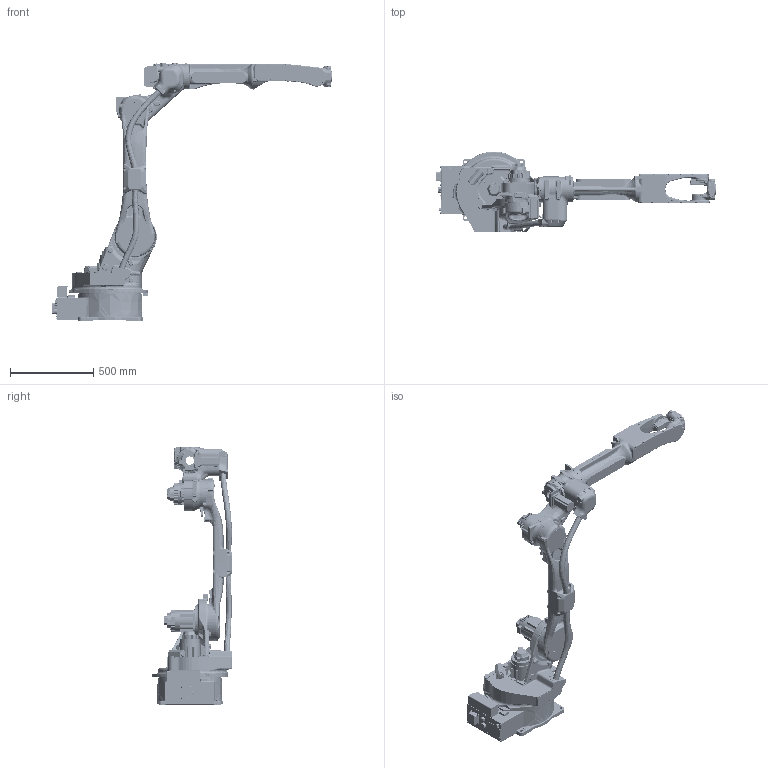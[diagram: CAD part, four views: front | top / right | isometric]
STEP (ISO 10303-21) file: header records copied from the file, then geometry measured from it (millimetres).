
FILE_DESCRIPTION((''),'2;1');
FILE_NAME('000_TOP_GP25_12_ASM','2017-07-24T',('Miyoshi_Nozomi'),('YASKAWA ELECTRIC CORPORATION'),'PRO/ENGINEER BY PARAMETRIC TECHNOLOGY CORPORATION, 2014000','PRO/ENGINEER BY PARAMETRIC TECHNOLOGY CORPORATION, 2014000','');
FILE_SCHEMA(('CONFIG_CONTROL_DESIGN'));
Products named in the file (8): BASE_AXIS; S_AXIS; L_AXIS; U_AXIS; R_AXIS; B_AXIS; T_AXIS; 000_TOP_GP25_12_ASM
Assembly tree (7 placements, depth 2):
  000_TOP_GP25_12_ASM
    BASE_AXIS
    S_AXIS
    L_AXIS
    U_AXIS
    R_AXIS
    B_AXIS
    T_AXIS
Bounding box: 1679.85 x 484 x 1548 mm (x, y, z)
Volume: 80605664.5 mm3; surface area: 3854514 mm2
Topology: 7 solids, 41 shells, 6783 faces, 17160 edges, 10503 vertices
Faces by surface type: cylinder 2205, plane 2085, bspline 1517, torus 580, cone 260, sphere 77, extrusion 59
Entity records: 337342 total; most frequent: CARTESIAN_POINT 183714, ORIENTED_EDGE 34088, DIRECTION 30144, EDGE_CURVE 17108, AXIS2_PLACEMENT_3D 11861, VERTEX_POINT 10503, EDGE_LOOP 7021, FACE_OUTER_BOUND 6783
